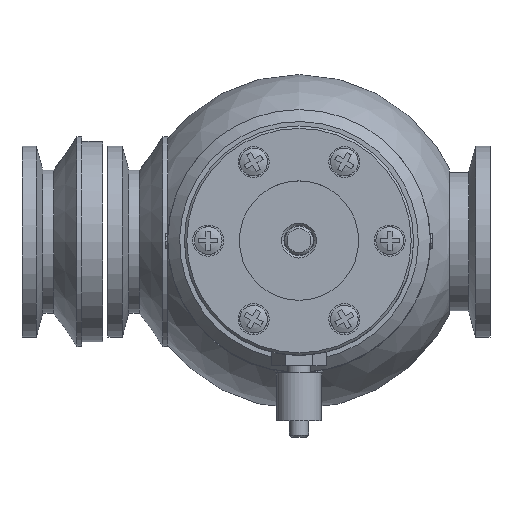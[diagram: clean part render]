
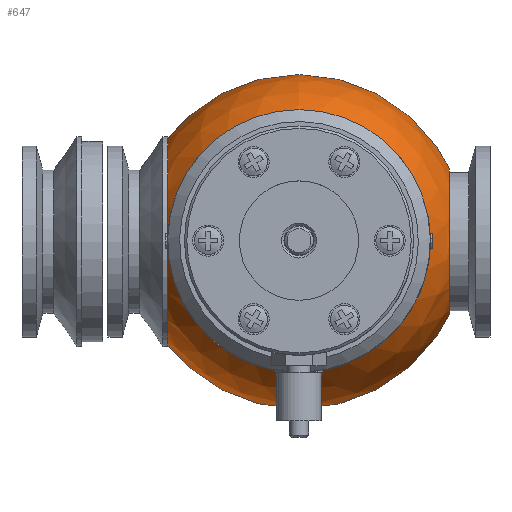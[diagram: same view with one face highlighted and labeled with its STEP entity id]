
A CAD part, top view. The second image highlights one B-rep face of the part: STEP entity #647.
In plain terms, the highlighted spherical face has radius 35 mm.
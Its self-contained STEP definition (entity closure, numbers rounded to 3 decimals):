
#647 = ADVANCED_FACE( '', ( #964, #965, #966 ), #967, .T. );
#964 = FACE_BOUND( '', #1415, .T. );
#965 = FACE_BOUND( '', #1416, .T. );
#966 = FACE_OUTER_BOUND( '', #1417, .T. );
#967 = SPHERICAL_SURFACE( '', #1418, 35. );
#1415 = EDGE_LOOP( '', ( #1906 ) );
#1416 = EDGE_LOOP( '', ( #1907 ) );
#1417 = EDGE_LOOP( '', ( #1908 ) );
#1418 = AXIS2_PLACEMENT_3D( '', #1909, #1910, #1911 );
#1906 = ORIENTED_EDGE( '', *, *, #2767, .F. );
#1907 = ORIENTED_EDGE( '', *, *, #2768, .F. );
#1908 = ORIENTED_EDGE( '', *, *, #2770, .F. );
#1909 = CARTESIAN_POINT( '', ( 0., 0., 0. ) );
#1910 = DIRECTION( '', ( 0., 0., -1. ) );
#1911 = DIRECTION( '', ( 0., 1., 0. ) );
#2767 = EDGE_CURVE( '', #3056, #3056, #3057, .F. );
#2768 = EDGE_CURVE( '', #3058, #3058, #3059, .F. );
#2770 = EDGE_CURVE( '', #3062, #3062, #3063, .F. );
#3056 = VERTEX_POINT( '', #3395 );
#3057 = CIRCLE( '', #3396, 15.256 );
#3058 = VERTEX_POINT( '', #3397 );
#3059 = CIRCLE( '', #3398, 21.651 );
#3062 = VERTEX_POINT( '', #3401 );
#3063 = CIRCLE( '', #3402, 21. );
#3395 = CARTESIAN_POINT( '', ( 31.5, 0., 15.256 ) );
#3396 = AXIS2_PLACEMENT_3D( '', #4275, #4276, #4277 );
#3397 = CARTESIAN_POINT( '', ( -27.5, 0., -21.651 ) );
#3398 = AXIS2_PLACEMENT_3D( '', #4278, #4279, #4280 );
#3401 = CARTESIAN_POINT( '', ( -21., 0., 28. ) );
#3402 = AXIS2_PLACEMENT_3D( '', #4284, #4285, #4286 );
#4275 = CARTESIAN_POINT( '', ( 31.5, 0., 0. ) );
#4276 = DIRECTION( '', ( -1., 0., 0. ) );
#4277 = DIRECTION( '', ( 0., 0., 1. ) );
#4278 = CARTESIAN_POINT( '', ( -27.5, 0., 0. ) );
#4279 = DIRECTION( '', ( 1., 0., 0. ) );
#4280 = DIRECTION( '', ( 0., 0., -1. ) );
#4284 = CARTESIAN_POINT( '', ( 0., 0., 28. ) );
#4285 = DIRECTION( '', ( 0., 0., -1. ) );
#4286 = DIRECTION( '', ( -1., 0., 0. ) );
